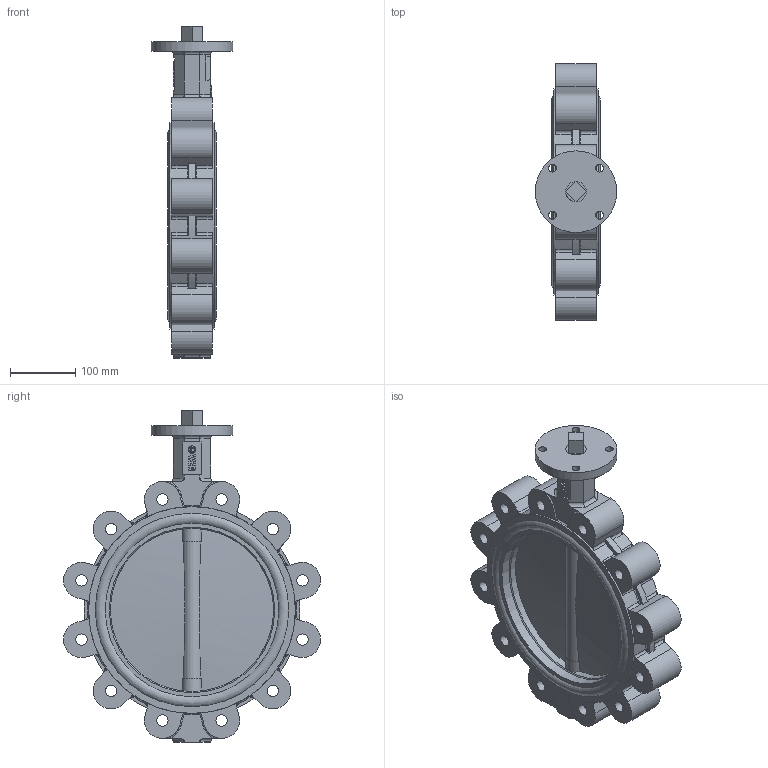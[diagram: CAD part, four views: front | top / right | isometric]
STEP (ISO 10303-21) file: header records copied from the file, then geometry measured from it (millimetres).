
FILE_DESCRIPTION(('STEP AP242'), '1');
FILE_NAME('Ïîâîðîòíûé çàòâîð ïîä ýëåêòðîïðèâîä', '', ('UNSPECIFIED'), ('UNSPECIFIED'), 'C3D Converter', 'C3D Toolkit', '');
FILE_SCHEMA(('AP242_MANAGED_MODEL_BASED_3D_ENGINEERING_MIM_LF { 1 0 10303 442 1 1 4 }'));
Length unit declared in the file: millimetre
Products named in the file (6): П
Assembly tree (6 placements, depth 2):
  (unnamed)
    (unnamed)
    П  x2
    (unnamed)
    (unnamed)
    (unnamed)
Bounding box: 125 x 392.86 x 508 mm (x, y, z)
Volume: 4921248.4 mm3; surface area: 744370 mm2
Topology: 6 solids, 6 shells, 662 faces, 1725 edges, 1106 vertices
Faces by surface type: plane 252, cylinder 188, extrusion 135, torus 79, cone 4, sphere 4
Full cylindrical faces by diameter (mm): 11.421 x1, 12 x4, 17.294 x12, 22 x5, 24.2 x1, 31.113 x5, 32.11 x4, 125 x1, 250 x1, 253.125 x2, 265.625 x2, 280.812 x4, 296 x4, 316.533 x2
Entity records: 25813 total; most frequent: CARTESIAN_POINT 7868, ORIENTED_EDGE 3326, DIRECTION 2972, EDGE_CURVE 1663, VERTEX_POINT 1101, AXIS2_PLACEMENT_3D 1014, VECTOR 944, LINE 809
